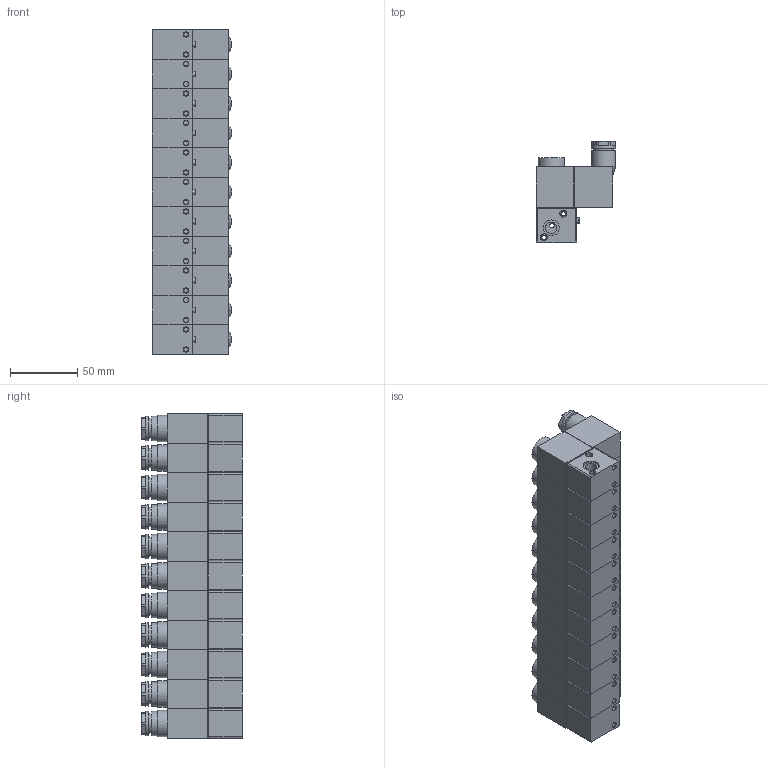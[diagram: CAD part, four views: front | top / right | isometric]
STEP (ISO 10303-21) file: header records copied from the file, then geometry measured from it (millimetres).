
FILE_DESCRIPTION(/* description */ ('STEP AP214'),/* implementation_level */ '2;1');
FILE_NAME(/* name */ '86-MS-3V-11-xxx.stp',/* time_stamp */ '2026-01-15T09:38:10+01:00',/* author */ ('Tschernatsch'),/* organization */ ('CADENAS'),/* preprocessor_version */ 'ST-DEVELOPER v20',/* originating_system */ 'Autodesk Inventor 2024',/* authorisation */ ' ');
FILE_SCHEMA (('AUTOMOTIVE_DESIGN { 1 0 10303 214 3 1 1 }'));
Length unit declared in the file: millimetre
Products named in the file (3): 3v1-06-LD-DC24V-11F; 3v1-06-LD-DC24V-11F3; 3v1-06-LD-DC24V-11F2
Assembly tree (22 placements, depth 2):
  3v1-06-LD-DC24V-11F
    3v1-06-LD-DC24V-11F3  x11
    3v1-06-LD-DC24V-11F2  x11
Bounding box: 59 x 75 x 242 mm (x, y, z)
Volume: 640178.6 mm3; surface area: 163468.2 mm2
Topology: 22 solids, 22 shells, 990 faces, 2145 edges, 1419 vertices
Faces by surface type: plane 671, cylinder 275, cone 44
Full cylindrical faces by diameter (mm): 3.242 x22, 3.5 x33, 4 x11, 4.3 x11, 5.2 x44, 8.566 x33, 11 x11, 12 x22, 14.4 x11, 18 x22, 19.6 x11
Entity records: 2761 total; most frequent: DIRECTION 497, CARTESIAN_POINT 441, ORIENTED_EDGE 390, EDGE_CURVE 195, AXIS2_PLACEMENT_3D 188, VERTEX_POINT 129, LINE 121, VECTOR 121
